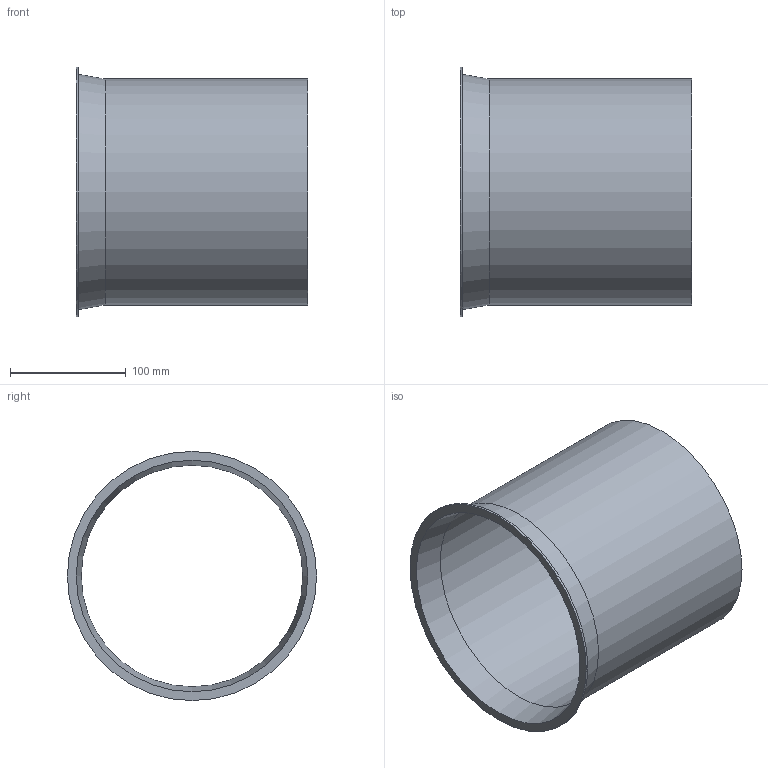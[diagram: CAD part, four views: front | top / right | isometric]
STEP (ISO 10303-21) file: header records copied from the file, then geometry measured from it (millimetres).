
FILE_DESCRIPTION((''),'2;1');
FILE_NAME('U:\Wolfgang\Marcel-3D\fertig\Kapitel 1\2011008.stp','2010-05-31T11:16:43',('TK2'),(''),'Autodesk Inventor 2010','Autodesk Inventor 2010','');
FILE_SCHEMA(('AUTOMOTIVE_DESIGN { 1 0 10303 214 1 1 1 1 }'));
Length unit declared in the file: millimetre
Products named in the file (1): 2011008
Bounding box: 200 x 215 x 215 mm (x, y, z)
Volume: 251329.9 mm3; surface area: 253882.6 mm2
Topology: 1 solids, 1 shells, 8 faces, 14 edges, 9 vertices
Faces by surface type: cylinder 3, plane 3, cone 2
Full cylindrical faces by diameter (mm): 191 x1, 195 x1, 215 x1
Entity records: 194 total; most frequent: DIRECTION 34, CARTESIAN_POINT 25, AXIS2_PLACEMENT_3D 17, ORIENTED_EDGE 16, EDGE_LOOP 16, VERTEX_POINT 8, CIRCLE 8, EDGE_CURVE 8
